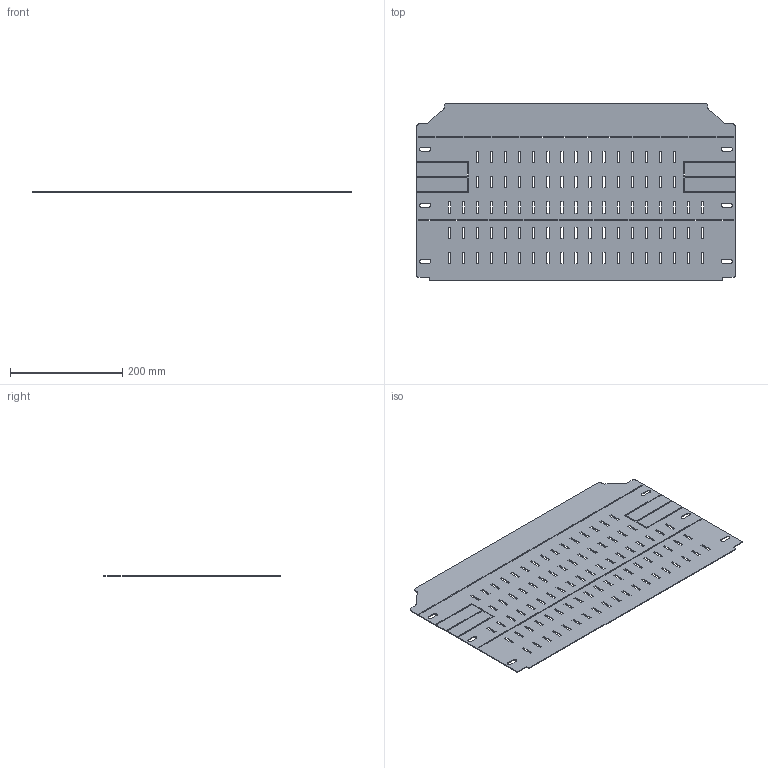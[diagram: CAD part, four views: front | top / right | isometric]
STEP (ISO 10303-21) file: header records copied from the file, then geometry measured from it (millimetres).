
FILE_DESCRIPTION(('STEP AP203'), '1');
FILE_NAME('Îãðàæäåíèå âåðõíåå ÔÁ Ø600õÃ400 ìì OptiBox M 419183 ÊÝÀÇ', '', ('UNSPECIFIED'), ('UNSPECIFIED'), 'C3D Converter', 'C3D Toolkit', '');
FILE_SCHEMA(('CONFIG_CONTROL_DESIGN'));
Length unit declared in the file: millimetre
Bounding box: 567 x 316.75 x 1.5 mm (x, y, z)
Volume: 248053 mm3; surface area: 345277.4 mm2
Topology: 1 solids, 1 shells, 524 faces, 1566 edges, 1044 vertices
Faces by surface type: plane 500, cylinder 24
Entity records: 17834 total; most frequent: CARTESIAN_POINT 3135, ORIENTED_EDGE 3132, DIRECTION 2664, EDGE_CURVE 1566, LINE 1518, VECTOR 1518, VERTEX_POINT 1044, FACE_BOUND 772
